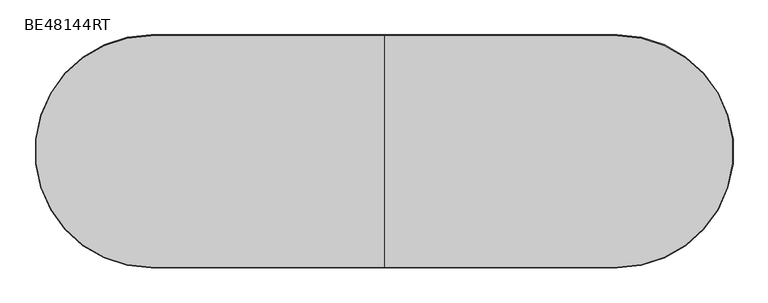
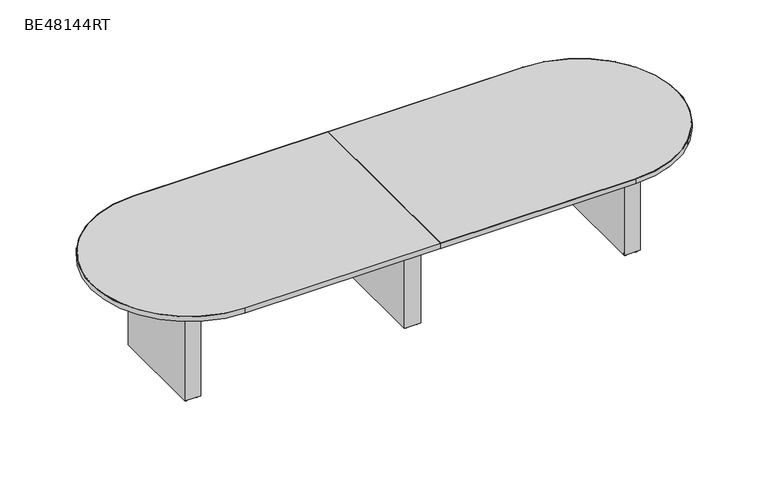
"""IFC4 building model written with IfcOpenShell, lengths in millimetres: furniture geometry, ERG-Beta-Conference_Table-Racetrack : BE48144RT."""

from ifc_helpers import new_model, si_unit, point, frame, frame_2d, origin, origin_with_axes, place, context, project, spatial, polyline, circle_curve, trimmed, segment, composite_curve, outline, extrude, source, transform, mapped, element, save


def be48144rt_097eed4c(model_context):
    return source(origin(), model_context, "Body", "SweptSolid", [
        extrude(outline(composite_curve([segment(trimmed(circle_curve(frame_2d((511.175, 339.476527)), 9.525), [point((501.65, 339.476527))], [point((520.7, 339.476527))], False, "CARTESIAN"), True, "CONTINUOUS"), segment(trimmed(circle_curve(frame_2d((511.175, 339.476527)), 9.525), [point((520.7, 339.476527))], [point((501.65, 339.476527))], False, "CARTESIAN"), True, "CONTINUOUS")], self_intersect=False)), origin_with_axes(), (0.0, 0.0, 1.0), 9.525),
        extrude(outline(composite_curve([segment(trimmed(circle_curve(frame_2d((574.675, 339.476527)), 9.525), [point((565.15, 339.476527))], [point((584.2, 339.476527))], False, "CARTESIAN"), True, "CONTINUOUS"), segment(trimmed(circle_curve(frame_2d((574.675, 339.476527)), 9.525), [point((584.2, 339.476527))], [point((565.15, 339.476527))], False, "CARTESIAN"), True, "CONTINUOUS")], self_intersect=False)), origin_with_axes(), (0.0, 0.0, 1.0), 9.525),
        extrude(outline(composite_curve([segment(trimmed(circle_curve(frame_2d((511.175, -232.023473)), 9.525), [point((501.65, -232.023473))], [point((520.7, -232.023473))], False, "CARTESIAN"), True, "CONTINUOUS"), segment(trimmed(circle_curve(frame_2d((511.175, -232.023473)), 9.525), [point((520.7, -232.023473))], [point((501.65, -232.023473))], False, "CARTESIAN"), True, "CONTINUOUS")], self_intersect=False)), origin_with_axes(), (0.0, 0.0, 1.0), 9.525),
        extrude(outline(composite_curve([segment(trimmed(circle_curve(frame_2d((574.675, -232.023473)), 9.525), [point((565.15, -232.023473))], [point((584.2, -232.023473))], False, "CARTESIAN"), True, "CONTINUOUS"), segment(trimmed(circle_curve(frame_2d((574.675, -232.023473)), 9.525), [point((584.2, -232.023473))], [point((565.15, -232.023473))], False, "CARTESIAN"), True, "CONTINUOUS")], self_intersect=False)), origin_with_axes(), (0.0, 0.0, 1.0), 9.525),
        extrude(outline(polyline([(593.725, 358.526527), (593.725, -251.073473), (492.125, -251.073473), (492.125, 358.526527), (593.725, 358.526527)])), frame((0.0, 0.0, 9.525), z_axis=(0.0, 0.0, 1.0), x_axis=(1.0, 0.0, 0.0)), (0.0, 0.0, 1.0), 695.3249758),
        extrude(outline(composite_curve([segment(trimmed(circle_curve(frame_2d((1882.775, 339.476527)), 9.525), [point((1873.25, 339.476527))], [point((1892.3, 339.476527))], False, "CARTESIAN"), True, "CONTINUOUS"), segment(trimmed(circle_curve(frame_2d((1882.775, 339.476527)), 9.525), [point((1892.3, 339.476527))], [point((1873.25, 339.476527))], False, "CARTESIAN"), True, "CONTINUOUS")], self_intersect=False)), origin_with_axes(), (0.0, 0.0, 1.0), 9.525),
        extrude(outline(composite_curve([segment(trimmed(circle_curve(frame_2d((1946.275, 339.476527)), 9.525), [point((1936.75, 339.476527))], [point((1955.8, 339.476527))], False, "CARTESIAN"), True, "CONTINUOUS"), segment(trimmed(circle_curve(frame_2d((1946.275, 339.476527)), 9.525), [point((1955.8, 339.476527))], [point((1936.75, 339.476527))], False, "CARTESIAN"), True, "CONTINUOUS")], self_intersect=False)), origin_with_axes(), (0.0, 0.0, 1.0), 9.525),
        extrude(outline(composite_curve([segment(trimmed(circle_curve(frame_2d((1882.775, -232.023473)), 9.525), [point((1873.25, -232.023473))], [point((1892.3, -232.023473))], False, "CARTESIAN"), True, "CONTINUOUS"), segment(trimmed(circle_curve(frame_2d((1882.775, -232.023473)), 9.525), [point((1892.3, -232.023473))], [point((1873.25, -232.023473))], False, "CARTESIAN"), True, "CONTINUOUS")], self_intersect=False)), origin_with_axes(), (0.0, 0.0, 1.0), 9.525),
        extrude(outline(composite_curve([segment(trimmed(circle_curve(frame_2d((1946.275, -232.023473)), 9.525), [point((1936.75, -232.023473))], [point((1955.8, -232.023473))], False, "CARTESIAN"), True, "CONTINUOUS"), segment(trimmed(circle_curve(frame_2d((1946.275, -232.023473)), 9.525), [point((1955.8, -232.023473))], [point((1936.75, -232.023473))], False, "CARTESIAN"), True, "CONTINUOUS")], self_intersect=False)), origin_with_axes(), (0.0, 0.0, 1.0), 9.525),
        extrude(outline(polyline([(1965.325, 358.526527), (1965.325, -251.073473), (1863.725, -251.073473), (1863.725, 358.526527), (1965.325, 358.526527)])), frame((0.0, 0.0, 9.525), z_axis=(0.0, 0.0, 1.0), x_axis=(1.0, 0.0, 0.0)), (0.0, 0.0, 1.0), 695.3249758),
        extrude(outline(composite_curve([segment(trimmed(circle_curve(frame_2d((-860.425, 339.476527)), 9.525), [point((-869.95, 339.476527))], [point((-850.9, 339.476527))], False, "CARTESIAN"), True, "CONTINUOUS"), segment(trimmed(circle_curve(frame_2d((-860.425, 339.476527)), 9.525), [point((-850.9, 339.476527))], [point((-869.95, 339.476527))], False, "CARTESIAN"), True, "CONTINUOUS")], self_intersect=False)), origin_with_axes(), (0.0, 0.0, 1.0), 9.525),
        extrude(outline(composite_curve([segment(trimmed(circle_curve(frame_2d((-796.925, 339.476527)), 9.525), [point((-806.45, 339.476527))], [point((-787.4, 339.476527))], False, "CARTESIAN"), True, "CONTINUOUS"), segment(trimmed(circle_curve(frame_2d((-796.925, 339.476527)), 9.525), [point((-787.4, 339.476527))], [point((-806.45, 339.476527))], False, "CARTESIAN"), True, "CONTINUOUS")], self_intersect=False)), origin_with_axes(), (0.0, 0.0, 1.0), 9.525),
        extrude(outline(composite_curve([segment(trimmed(circle_curve(frame_2d((-860.425, -232.023473)), 9.525), [point((-869.95, -232.023473))], [point((-850.9, -232.023473))], False, "CARTESIAN"), True, "CONTINUOUS"), segment(trimmed(circle_curve(frame_2d((-860.425, -232.023473)), 9.525), [point((-850.9, -232.023473))], [point((-869.95, -232.023473))], False, "CARTESIAN"), True, "CONTINUOUS")], self_intersect=False)), origin_with_axes(), (0.0, 0.0, 1.0), 9.525),
        extrude(outline(composite_curve([segment(trimmed(circle_curve(frame_2d((-796.925, -232.023473)), 9.525), [point((-806.45, -232.023473))], [point((-787.4, -232.023473))], False, "CARTESIAN"), True, "CONTINUOUS"), segment(trimmed(circle_curve(frame_2d((-796.925, -232.023473)), 9.525), [point((-787.4, -232.023473))], [point((-806.45, -232.023473))], False, "CARTESIAN"), True, "CONTINUOUS")], self_intersect=False)), origin_with_axes(), (0.0, 0.0, 1.0), 9.525),
        extrude(outline(polyline([(-777.875, 358.526527), (-777.875, -251.073473), (-879.475, -251.073473), (-879.475, 358.526527), (-777.875, 358.526527)])), frame((0.0, 0.0, 9.525), z_axis=(0.0, 0.0, 1.0), x_axis=(1.0, 0.0, 0.0)), (0.0, 0.0, 1.0), 695.3249758),
        extrude(outline(composite_curve([segment(trimmed(circle_curve(frame_2d((1762.125, 53.726527)), 606.425), [point((1762.125, 660.151527))], [point((1762.125, -552.698473))], False, "CARTESIAN"), True, "CONTINUOUS"), segment(polyline([(1762.125, -552.698473), (544.5125, -552.698473), (544.5125, 660.151527), (1762.125, 660.151527)]), True, "CONTINUOUS")], self_intersect=False)), frame((0.0, 0.0, 704.85), z_axis=(0.0, 0.0, 1.0), x_axis=(1.0, 0.0, 0.0)), (0.0, 0.0, 1.0), 31.75),
        extrude(outline(composite_curve([segment(trimmed(circle_curve(frame_2d((-676.275, 53.726527)), 606.425), [point((-676.275, -552.698473))], [point((-676.275, 660.151527))], False, "CARTESIAN"), True, "CONTINUOUS"), segment(polyline([(-676.275, 660.151527), (541.3375, 660.151527), (541.3375, -552.698473), (-676.275, -552.698473)]), True, "CONTINUOUS")], self_intersect=False)), frame((0.0, 0.0, 704.85), z_axis=(0.0, 0.0, 1.0), x_axis=(1.0, 0.0, 0.0)), (0.0, 0.0, 1.0), 31.75),
        extrude(outline(composite_curve([segment(trimmed(circle_curve(frame_2d((1762.125, 53.726527)), 606.425), [point((1762.125, -552.698473))], [point((1762.125, 660.151527))], True, "CARTESIAN"), True, "CONTINUOUS"), segment(polyline([(1762.125, 660.151527), (544.5125, 660.151527), (544.5125, 663.326527), (1762.125, 663.326527)]), True, "CONTINUOUS"), segment(trimmed(circle_curve(frame_2d((1762.125, 53.726527)), 609.6), [point((1762.125, 663.326527))], [point((1762.125, -555.873473))], False, "CARTESIAN"), True, "CONTINUOUS"), segment(polyline([(1762.125, -555.873473), (544.5125, -555.873473), (544.5125, -552.698473), (1762.125, -552.698473)]), True, "CONTINUOUS")], self_intersect=False)), frame((0.0, 0.0, 704.85), z_axis=(0.0, 0.0, 1.0), x_axis=(1.0, 0.0, 0.0)), (0.0, 0.0, 1.0), 31.75),
        extrude(outline(composite_curve([segment(trimmed(circle_curve(frame_2d((-676.275, 53.726527)), 609.6), [point((-676.275, -555.873473))], [point((-676.275, 663.326527))], False, "CARTESIAN"), True, "CONTINUOUS"), segment(polyline([(-676.275, 663.326527), (541.3375, 663.326527), (541.3375, 660.151527), (-676.275, 660.151527)]), True, "CONTINUOUS"), segment(trimmed(circle_curve(frame_2d((-676.275, 53.726527)), 606.425), [point((-676.275, 660.151527))], [point((-676.275, -552.698473))], True, "CARTESIAN"), True, "CONTINUOUS"), segment(polyline([(-676.275, -552.698473), (541.3375, -552.698473), (541.3375, -555.873473), (-676.275, -555.873473)]), True, "CONTINUOUS")], self_intersect=False)), frame((0.0, 0.0, 704.85), z_axis=(0.0, 0.0, 1.0), x_axis=(1.0, 0.0, 0.0)), (0.0, 0.0, 1.0), 31.75),
    ])


if __name__ == "__main__":
    model = new_model("IFC4")
    model_context = context("Model", 3, world=origin())
    ifc_project = project(units=[si_unit("LENGTHUNIT", "METRE", prefix="MILLI")], contexts=[model_context])
    site = spatial("IfcSite", under=ifc_project)
    building = spatial("IfcBuilding", under=site)
    placement = place(None, origin())
    be48144rt_shape = be48144rt_097eed4c(model_context)
    element("IfcFurniture", 1, ObjectType="ERG-Beta-Conference_Table-Racetrack : BE48144RT", at=placement, inside=building, context=model_context, shape_type="MappedRepresentation", body=[
        mapped(be48144rt_shape, transform((0.0, 0.0, 0.0), x_axis=(1.0, 0.0, 0.0), y_axis=(0.0, 1.0, 0.0), z_axis=(0.0, 0.0, 1.0))),
    ])
    save(model, "model.ifc")
